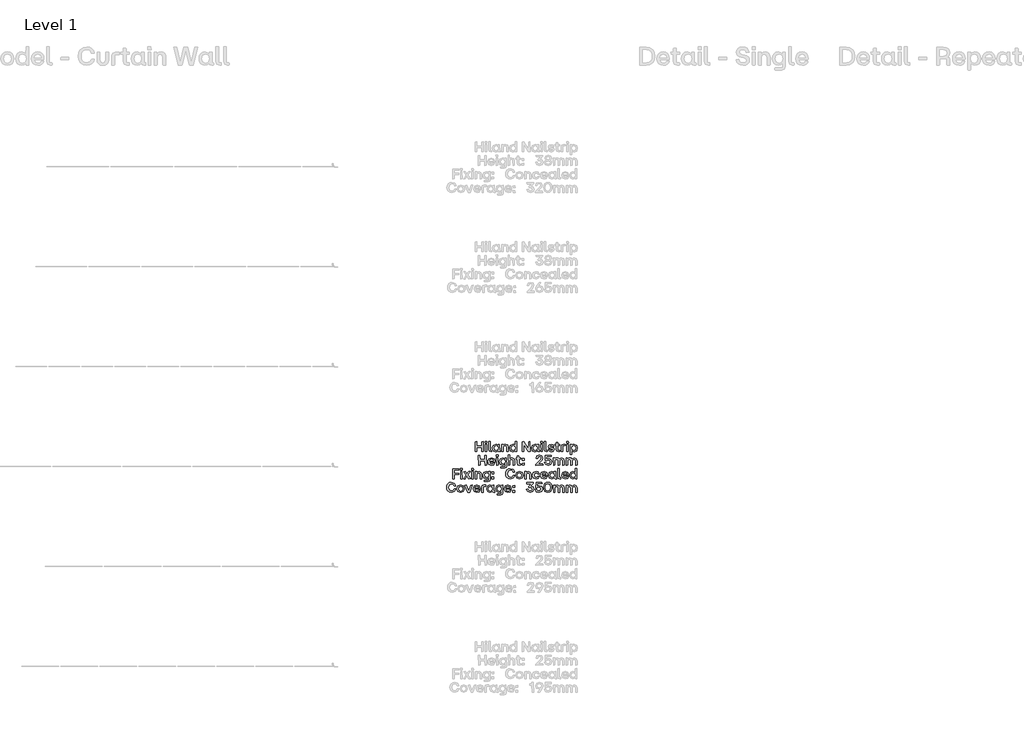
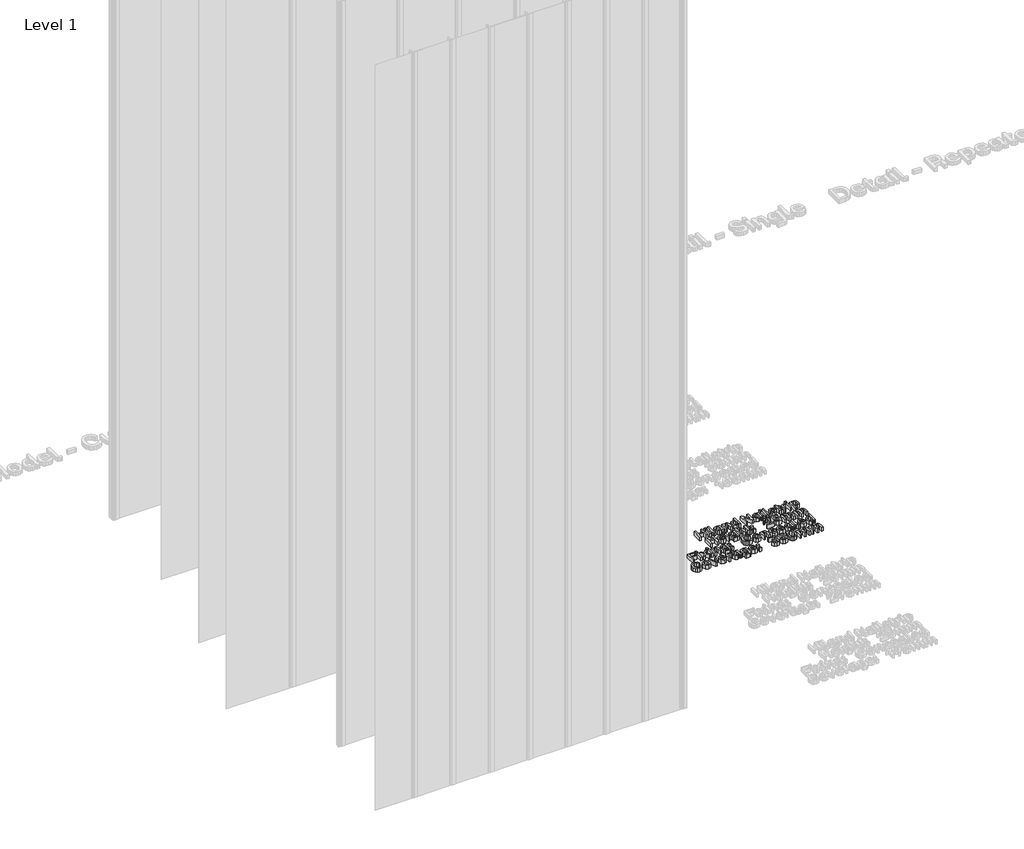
# One storey, part 28 of 64: 1 proxy.
"""IFC4 building model written with IfcOpenShell, lengths in millimetres."""

from ifc_helpers import new_model, si_unit, origin, origin_with_axes, place, context, project, spatial, polyline, outline, extrude, element, save

model = new_model("IFC4")

# Units and contexts
model_context = context("Model", 3, world=origin())
ifc_project = project(units=[si_unit("LENGTHUNIT", "METRE", prefix="MILLI")], contexts=[model_context])

# Site, building, storey
site = spatial("IfcSite", under=ifc_project)
building = spatial("IfcBuilding", under=site)
storey = spatial("IfcBuildingStorey", under=building, Name="Level 1", Elevation=0.0)

# Proxy
placement = place(None, origin())
element("IfcBuildingElementProxy", 1, Name="50mm", ObjectType="50mm", at=placement, inside=storey, context=model_context, shape_type="SweptSolid", body=[
    extrude(outline(polyline([(2520.0683519, -3433.5188866), (2519.3710201, -3411.5808277), (2495.5222721, -3411.5808277), (2495.5222721, -3432.8215548), (2488.0189817, -3433.5188866), (2487.2937566, -3384.2454206), (2494.7831003, -3383.5201955), (2495.5222721, -3404.6075096), (2519.3710201, -3404.6075096), (2519.3710201, -3384.2454206), (2526.8603638, -3383.5201955), (2527.5576956, -3432.8215548), (2520.0683519, -3433.5188866)])), origin_with_axes(), (0.0, 0.0, 1.0), 20.0),
    extrude(outline(polyline([(2537.6550603, -3433.5188866), (2536.9298352, -3397.8154977), (2544.1402462, -3397.1181659), (2544.837578, -3432.8215548), (2537.6550603, -3433.5188866)])), origin_with_axes(), (0.0, 0.0, 1.0), 20.0),
    extrude(outline(polyline([(2536.7206357, -3390.4516737), (2536.3719698, -3382.4044646), (2544.7678448, -3381.6652929), (2545.5070165, -3390.1030078), (2536.7206357, -3390.4516737)])), origin_with_axes(), (0.0, 0.0, 1.0), 20.0),
    extrude(outline(polyline([(2564.2373491, -3433.5188866), (2556.5388058, -3430.8690257), (2553.8889449, -3423.1565359), (2553.8889449, -3382.8228637), (2561.0993559, -3382.083692), (2561.7966877, -3427.2429003), (2568.4631799, -3427.2429003), (2569.1605117, -3432.8215548), (2564.2373491, -3433.5188866)])), origin_with_axes(), (0.0, 0.0, 1.0), 20.0),
    extrude(outline(polyline([(2589.3273478, -3433.9372857), (2577.5563867, -3428.8955767), (2573.1771429, -3415.3882594), (2577.5563867, -3401.7484491), (2589.3273478, -3396.6579269), (2595.9450267, -3398.2617901), (2600.9309491, -3402.6549805), (2601.2517218, -3397.8154977), (2608.4342395, -3397.1181659), (2609.1594646, -3427.2429003), (2613.1063626, -3427.2429003), (2613.8036944, -3432.8215548), (2607.8066408, -3433.5188866), (2603.151951, -3432.2113895), (2601.6003877, -3428.288898), (2596.2448794, -3432.3334225), (2589.3273478, -3433.9372857)]), holes=[polyline([(2581.2382987, -3415.3882594), (2583.9927594, -3424.2792401), (2591.5169696, -3427.521833), (2598.8807936, -3424.2931867), (2601.5306545, -3415.3882594), (2598.8598737, -3406.392679), (2591.5169696, -3403.1152195), (2583.9927594, -3406.392679), (2581.2382987, -3415.3882594)])]), origin_with_axes(), (0.0, 0.0, 1.0), 20.0),
    extrude(outline(polyline([(2620.6654395, -3433.5188866), (2619.9402144, -3397.8154977), (2626.8019595, -3397.1181659), (2627.4992913, -3402.6549805), (2632.6630334, -3398.1571903), (2639.2841989, -3396.6579269), (2648.8446181, -3400.8419178), (2652.1569442, -3413.0870644), (2652.1569442, -3432.8215548), (2644.9325866, -3433.5188866), (2644.2073616, -3413.0870644), (2642.2548325, -3405.7092939), (2636.0834459, -3403.3941522), (2629.8562728, -3405.7441604), (2627.8479572, -3413.0870644), (2627.8479572, -3432.8215548), (2620.6654395, -3433.5188866)])), origin_with_axes(), (0.0, 0.0, 1.0), 20.0),
    extrude(outline(polyline([(2675.0154811, -3433.9372857), (2663.2445201, -3428.8955767), (2658.8652763, -3415.3882594), (2663.2445201, -3401.7484491), (2675.0154811, -3396.6579269), (2681.63316, -3398.2617901), (2686.6190825, -3402.6549805), (2686.9398552, -3382.8228637), (2694.1223728, -3382.083692), (2694.8475979, -3432.8215548), (2687.9858529, -3433.5188866), (2687.2885211, -3428.0099653), (2681.9330127, -3432.3334225), (2675.0154811, -3433.9372857)]), holes=[polyline([(2666.9264321, -3415.3882594), (2669.6808927, -3424.2792401), (2677.205103, -3427.521833), (2684.568927, -3424.2931867), (2687.2187879, -3415.3882594), (2684.548007, -3406.392679), (2677.205103, -3403.1152195), (2669.6808927, -3406.392679), (2666.9264321, -3415.3882594)])]), origin_with_axes(), (0.0, 0.0, 1.0), 20.0),
    extrude(outline(polyline([(2721.8761791, -3433.5188866), (2721.150954, -3384.2454206), (2730.007068, -3383.5201955), (2753.2979506, -3420.7856077), (2753.5768834, -3384.2454206), (2760.7872943, -3383.5201955), (2761.4846261, -3432.8215548), (2752.670352, -3433.5188866), (2729.3794694, -3396.2395278), (2729.1005367, -3432.8215548), (2721.8761791, -3433.5188866)])), origin_with_axes(), (0.0, 0.0, 1.0), 20.0),
    extrude(outline(polyline([(2784.803402, -3433.9372857), (2773.032441, -3428.8955767), (2768.6531972, -3415.3882594), (2773.032441, -3401.7484491), (2784.803402, -3396.6579269), (2791.4210809, -3398.2617901), (2796.4070034, -3402.6549805), (2796.727776, -3397.8154977), (2803.9102937, -3397.1181659), (2804.6355188, -3427.2429003), (2808.5824169, -3427.2429003), (2809.2797487, -3432.8215548), (2803.2826951, -3433.5188866), (2798.6280052, -3432.2113895), (2797.076442, -3428.288898), (2791.7209336, -3432.3334225), (2784.803402, -3433.9372857)]), holes=[polyline([(2776.714353, -3415.3882594), (2779.4688136, -3424.2792401), (2786.9930239, -3427.521833), (2794.3568479, -3424.2931867), (2797.0067088, -3415.3882594), (2794.3359279, -3406.392679), (2786.9930239, -3403.1152195), (2779.4688136, -3406.392679), (2776.714353, -3415.3882594)])]), origin_with_axes(), (0.0, 0.0, 1.0), 20.0),
    extrude(outline(polyline([(2815.2070691, -3390.4516737), (2814.8584032, -3382.4044646), (2823.2542783, -3381.6652929), (2823.99345, -3390.1030078), (2815.2070691, -3390.4516737)])), origin_with_axes(), (0.0, 0.0, 1.0), 20.0),
    extrude(outline(polyline([(2816.1414938, -3433.5188866), (2815.4162687, -3397.8154977), (2822.6266796, -3397.1181659), (2823.3240115, -3432.8215548), (2816.1414938, -3433.5188866)])), origin_with_axes(), (0.0, 0.0, 1.0), 20.0),
    extrude(outline(polyline([(2842.7237825, -3433.5188866), (2835.0252393, -3430.8690257), (2832.3753784, -3423.1565359), (2832.3753784, -3382.8228637), (2839.5857894, -3382.083692), (2840.2831212, -3427.2429003), (2846.9496133, -3427.2429003), (2847.6469451, -3432.8215548), (2842.7237825, -3433.5188866)])), origin_with_axes(), (0.0, 0.0, 1.0), 20.0),
    extrude(outline(polyline([(2867.283809, -3433.9372857), (2856.5518724, -3430.9875721), (2852.0819755, -3422.5289372), (2859.0274004, -3421.7339789), (2862.109607, -3426.5455685), (2867.283809, -3427.8007657), (2871.7467327, -3426.6153017), (2873.420329, -3423.4354686), (2872.2209183, -3420.5764081), (2868.1624471, -3419.0841181), (2863.0719249, -3418.1775867), (2855.3454884, -3414.6351411), (2852.8490405, -3407.5363032), (2856.5100325, -3399.6215871), (2866.3772777, -3396.6579269), (2876.0701899, -3399.4123876), (2880.2960207, -3407.2294772), (2873.3505958, -3408.0244355), (2870.6031085, -3403.8613645), (2866.3772777, -3402.7944469), (2862.1235536, -3403.8962311), (2860.6591568, -3407.0900108), (2861.7051545, -3409.8584181), (2865.5125862, -3411.3716282), (2870.9517744, -3412.3897326), (2878.9641169, -3415.8763917), (2881.2304453, -3423.0170695), (2877.6043199, -3431.1130919), (2867.283809, -3433.9372857)])), origin_with_axes(), (0.0, 0.0, 1.0), 20.0),
    extrude(outline(polyline([(2903.0429845, -3433.5188866), (2895.3304946, -3430.8690257), (2892.6806337, -3423.1565359), (2892.6806337, -3403.3941522), (2886.4743806, -3403.3941522), (2885.7491555, -3397.8154977), (2892.6806337, -3397.1181659), (2892.6806337, -3387.104481), (2899.9049913, -3386.3792559), (2900.6023231, -3397.1181659), (2909.388704, -3397.1181659), (2910.1139291, -3402.6549805), (2900.6023231, -3403.3941522), (2900.6023231, -3427.2429003), (2909.388704, -3427.2429003), (2910.1139291, -3432.8215548), (2903.0429845, -3433.5188866)])), origin_with_axes(), (0.0, 0.0, 1.0), 20.0),
    extrude(outline(polyline([(2917.519593, -3433.5188866), (2916.8222612, -3407.4386768), (2919.4721221, -3399.7471068), (2927.1706653, -3397.1181659), (2937.3238165, -3397.1181659), (2938.0211483, -3403.1152195), (2924.7300039, -3403.8125513), (2924.7300039, -3432.8215548), (2917.519593, -3433.5188866)])), origin_with_axes(), (0.0, 0.0, 1.0), 20.0),
    extrude(outline(polyline([(2945.5662786, -3433.5188866), (2944.8410535, -3397.8154977), (2952.0514644, -3397.1181659), (2952.7487962, -3432.8215548), (2945.5662786, -3433.5188866)])), origin_with_axes(), (0.0, 0.0, 1.0), 20.0),
    extrude(outline(polyline([(2944.6318539, -3390.4516737), (2944.283188, -3382.4044646), (2952.6790631, -3381.6652929), (2953.4182348, -3390.1030078), (2944.6318539, -3390.4516737)])), origin_with_axes(), (0.0, 0.0, 1.0), 20.0),
    extrude(outline(polyline([(2962.5253883, -3447.0750171), (2961.8001632, -3397.8154977), (2968.6619083, -3397.1181659), (2969.3592401, -3402.5852473), (2974.7147484, -3398.2617901), (2981.63228, -3396.6579269), (2993.403241, -3401.7135826), (2997.7824848, -3415.2487931), (2993.403241, -3428.8607101), (2981.63228, -3433.9372857), (2975.0146011, -3432.3334225), (2970.0286786, -3427.9402321), (2969.707906, -3446.3776853), (2962.5253883, -3447.0750171)]), holes=[polyline([(2969.4289732, -3415.2487931), (2972.0997541, -3424.2443735), (2979.4426581, -3427.521833), (2986.9668684, -3424.2443735), (2989.7213291, -3415.2487931), (2986.9668684, -3406.3578124), (2979.4426581, -3403.1152195), (2972.0788341, -3406.3368925), (2969.4289732, -3415.2487931)])]), origin_with_axes(), (0.0, 0.0, 1.0), 20.0),
    extrude(outline(polyline([(2536.1348769, -3501.3705811), (2535.4375451, -3479.4325222), (2511.5887971, -3479.4325222), (2511.5887971, -3500.6732493), (2504.0855067, -3501.3705811), (2503.3602816, -3452.0971151), (2510.8496253, -3451.37189), (2511.5887971, -3472.459204), (2535.4375451, -3472.459204), (2535.4375451, -3452.0971151), (2542.9268888, -3451.37189), (2543.6242206, -3500.6732493), (2536.1348769, -3501.3705811)])), origin_with_axes(), (0.0, 0.0, 1.0), 20.0),
    extrude(outline(polyline([(2569.2720848, -3501.7889802), (2555.8693673, -3496.7472711), (2550.8625249, -3483.2399539), (2555.8484473, -3469.586197), (2569.2720848, -3464.5096214), (2581.552098, -3469.5164638), (2586.0498882, -3483.1702207), (2586.0498882, -3485.0809099), (2558.9934138, -3485.8200816), (2562.0616738, -3492.8631329), (2569.2720848, -3495.3735275), (2575.0599388, -3494.0974102), (2578.0584656, -3490.520098), (2585.1433569, -3489.9343393), (2580.4851803, -3498.6998002), (2569.2720848, -3501.7889802)]), holes=[polyline([(2559.063147, -3480.0322275), (2578.2676652, -3480.0322275), (2575.6247776, -3473.3866554), (2569.2720848, -3470.966914), (2562.1802202, -3473.2681089), (2559.063147, -3480.0322275)])]), origin_with_axes(), (0.0, 0.0, 1.0), 20.0),
    extrude(outline(polyline([(2592.9534732, -3458.3033682), (2592.6048073, -3450.2561591), (2601.0006823, -3449.5169873), (2601.7398541, -3457.9547023), (2592.9534732, -3458.3033682)])), origin_with_axes(), (0.0, 0.0, 1.0), 20.0),
    extrude(outline(polyline([(2593.8878978, -3501.3705811), (2593.1626727, -3465.6671922), (2600.3730837, -3464.9698603), (2601.0704155, -3500.6732493), (2593.8878978, -3501.3705811)])), origin_with_axes(), (0.0, 0.0, 1.0), 20.0),
    extrude(outline(polyline([(2615.5609706, -3514.9267115), (2614.8217989, -3509.348057), (2636.062526, -3508.6507252), (2636.062526, -3495.7919266), (2630.7558309, -3500.185117), (2624.1381519, -3501.7889802), (2612.3671909, -3496.7124045), (2607.9879471, -3483.1004875), (2612.3671909, -3469.565277), (2624.1381519, -3464.5096214), (2631.0556835, -3466.1134845), (2636.1322591, -3470.4369418), (2636.4111919, -3465.6671922), (2643.2450437, -3464.9698603), (2643.9702687, -3504.9269733), (2641.390141, -3512.3675038), (2633.9705305, -3514.9267115), (2615.5609706, -3514.9267115)]), holes=[polyline([(2616.0491029, -3483.1004875), (2618.8035636, -3492.0960679), (2626.3277738, -3495.3735275), (2633.6706778, -3492.0960679), (2636.3414587, -3483.1004875), (2633.6915978, -3474.1885869), (2626.3277738, -3470.966914), (2618.8035636, -3474.2095069), (2616.0491029, -3483.1004875)])]), origin_with_axes(), (0.0, 0.0, 1.0), 20.0),
    extrude(outline(polyline([(2653.6910742, -3501.3705811), (2652.9658492, -3450.6745581), (2660.1762601, -3449.9353864), (2660.8735919, -3470.2277422), (2665.9606275, -3465.9391516), (2672.3098337, -3464.5096214), (2681.8702529, -3468.6936122), (2685.182579, -3480.9387589), (2685.182579, -3500.6732493), (2677.9582214, -3501.3705811), (2677.2329963, -3480.9387589), (2675.2804672, -3473.5609883), (2669.1090807, -3471.2458467), (2662.8819076, -3473.5958549), (2660.8735919, -3480.9387589), (2660.8735919, -3500.6732493), (2653.6910742, -3501.3705811)])), origin_with_axes(), (0.0, 0.0, 1.0), 20.0),
    extrude(outline(polyline([(2708.459515, -3501.3705811), (2700.7470251, -3498.7207202), (2698.0971642, -3491.0082303), (2698.0971642, -3471.2458467), (2691.890911, -3471.2458467), (2691.165686, -3465.6671922), (2698.0971642, -3464.9698603), (2698.0971642, -3454.9561755), (2705.3215218, -3454.2309504), (2706.0188536, -3464.9698603), (2714.8052345, -3464.9698603), (2715.5304596, -3470.506675), (2706.0188536, -3471.2458467), (2706.0188536, -3495.0945947), (2714.8052345, -3495.0945947), (2715.5304596, -3500.6732493), (2708.459515, -3501.3705811)])), origin_with_axes(), (0.0, 0.0, 1.0), 20.0),
    extrude(outline(polyline([(2722.9361234, -3477.7310326), (2722.2387916, -3468.1078535), (2731.7225043, -3467.3686818), (2732.4477294, -3477.0337007), (2722.9361234, -3477.7310326)])), origin_with_axes(), (0.0, 0.0, 1.0), 20.0),
    extrude(outline(polyline([(2722.5874575, -3501.0219152), (2722.2387916, -3491.747402), (2731.7225043, -3491.0082303), (2732.4477294, -3500.6732493), (2722.5874575, -3501.0219152)])), origin_with_axes(), (0.0, 0.0, 1.0), 20.0),
    extrude(outline(polyline([(2790.4238964, -3501.3705811), (2789.6986714, -3496.5868848), (2807.0622335, -3480.590093), (2814.2098846, -3472.6753769), (2816.1972803, -3465.3882594), (2814.216858, -3459.7084918), (2808.2755909, -3457.8152359), (2801.4068725, -3459.8932847), (2798.5547854, -3466.4621504), (2791.1212283, -3467.1594822), (2795.7096716, -3454.9631488), (2808.2755909, -3450.9534909), (2820.1023385, -3454.8236824), (2824.4257957, -3465.3882594), (2821.7410682, -3475.1648515), (2812.5711549, -3485.5690422), (2803.1153355, -3494.0764903), (2825.8483526, -3494.355423), (2826.5456844, -3500.6732493), (2790.4238964, -3501.3705811)])), origin_with_axes(), (0.0, 0.0, 1.0), 20.0),
    extrude(outline(polyline([(2851.8030428, -3501.7889802), (2838.6025515, -3498.0931215), (2832.7937775, -3487.3821049), (2840.1576015, -3486.5871466), (2844.365999, -3493.0200326), (2851.8030428, -3494.9551284), (2859.2087066, -3492.2704009), (2861.802781, -3484.6625108), (2859.2226533, -3477.3614467), (2851.6635764, -3474.8719721), (2841.3012256, -3478.8049235), (2836.4617428, -3478.5259908), (2837.5077406, -3452.0971151), (2867.1443427, -3451.37189), (2867.8695678, -3457.6757696), (2844.1602861, -3458.3731014), (2843.3653278, -3471.0366471), (2848.5395299, -3468.8400519), (2854.2437041, -3468.0381203), (2865.7984923, -3472.4661774), (2870.0034031, -3484.6625108), (2865.1918136, -3497.27027), (2851.8030428, -3501.7889802)])), origin_with_axes(), (0.0, 0.0, 1.0), 20.0),
    extrude(outline(polyline([(2878.6224244, -3501.3705811), (2877.8971993, -3465.6671922), (2884.7589443, -3464.9698603), (2885.4562761, -3470.506675), (2890.4421986, -3466.0088848), (2896.8925179, -3464.5096214), (2903.1789642, -3466.0088848), (2907.394335, -3470.506675), (2913.2170557, -3466.0646713), (2920.4623332, -3464.5096214), (2929.7368464, -3468.6796656), (2932.9445727, -3480.9387589), (2932.9445727, -3500.6732493), (2925.7341617, -3501.3705811), (2925.0368299, -3480.9387589), (2923.154034, -3473.5609883), (2917.1848737, -3471.2458467), (2911.2784732, -3473.5958549), (2909.3747574, -3480.9387589), (2909.3747574, -3500.6732493), (2902.1643464, -3501.3705811), (2901.4670146, -3480.9387589), (2899.5981653, -3473.5609883), (2893.6847915, -3471.2458467), (2887.7086579, -3473.5958549), (2885.804942, -3480.9387589), (2885.804942, -3500.6732493), (2878.6224244, -3501.3705811)])), origin_with_axes(), (0.0, 0.0, 1.0), 20.0),
    extrude(outline(polyline([(2941.9959397, -3501.3705811), (2941.2707146, -3465.6671922), (2948.1324596, -3464.9698603), (2948.8297914, -3470.506675), (2953.8157139, -3466.0088848), (2960.2660332, -3464.5096214), (2966.5524795, -3466.0088848), (2970.7678503, -3470.506675), (2976.590571, -3466.0646713), (2983.8358485, -3464.5096214), (2993.1103617, -3468.6796656), (2996.318088, -3480.9387589), (2996.318088, -3500.6732493), (2989.1076771, -3501.3705811), (2988.4103452, -3480.9387589), (2986.5275493, -3473.5609883), (2980.558389, -3471.2458467), (2974.6519885, -3473.5958549), (2972.7482727, -3480.9387589), (2972.7482727, -3500.6732493), (2965.5378617, -3501.3705811), (2964.8405299, -3480.9387589), (2962.9716806, -3473.5609883), (2957.0583069, -3471.2458467), (2951.0821732, -3473.5958549), (2949.1784574, -3480.9387589), (2949.1784574, -3500.6732493), (2941.9959397, -3501.3705811)])), origin_with_axes(), (0.0, 0.0, 1.0), 20.0),
    extrude(outline(polyline([(2374.6607219, -3569.2222755), (2373.9354969, -3519.9488095), (2405.5246281, -3519.2235844), (2406.2219599, -3525.527464), (2382.1640123, -3526.2247958), (2382.1640123, -3541.287163), (2404.0881245, -3541.287163), (2404.7854563, -3547.5631494), (2382.1640123, -3548.3023211), (2382.1640123, -3568.5249437), (2374.6607219, -3569.2222755)])), origin_with_axes(), (0.0, 0.0, 1.0), 20.0),
    extrude(outline(polyline([(2414.4783686, -3569.2222755), (2413.7531435, -3533.5188866), (2420.9635544, -3532.8215548), (2421.6608863, -3568.5249437), (2414.4783686, -3569.2222755)])), origin_with_axes(), (0.0, 0.0, 1.0), 20.0),
    extrude(outline(polyline([(2413.5439439, -3526.1550627), (2413.195278, -3518.1078535), (2421.5911531, -3517.3686818), (2422.3303248, -3525.8063967), (2413.5439439, -3526.1550627)])), origin_with_axes(), (0.0, 0.0, 1.0), 20.0),
    extrude(outline(polyline([(2428.5784179, -3569.2222755), (2441.3395901, -3550.7429824), (2429.1362833, -3533.658353), (2437.1277059, -3532.8215548), (2445.9140868, -3544.815662), (2454.1426022, -3533.2399539), (2462.2595445, -3532.8215548), (2450.6559431, -3549.9340775), (2463.696048, -3568.3436374), (2455.7046254, -3569.2222755), (2445.9838199, -3555.7916648), (2436.7093068, -3568.8038764), (2428.5784179, -3569.2222755)])), origin_with_axes(), (0.0, 0.0, 1.0), 20.0),
    extrude(outline(polyline([(2470.7112061, -3569.2222755), (2469.985981, -3533.5188866), (2477.196392, -3532.8215548), (2477.8937238, -3568.5249437), (2470.7112061, -3569.2222755)])), origin_with_axes(), (0.0, 0.0, 1.0), 20.0),
    extrude(outline(polyline([(2469.7767815, -3526.1550627), (2469.4281156, -3518.1078535), (2477.8239906, -3517.3686818), (2478.5631623, -3525.8063967), (2469.7767815, -3526.1550627)])), origin_with_axes(), (0.0, 0.0, 1.0), 20.0),
    extrude(outline(polyline([(2487.6703158, -3569.2222755), (2486.9450907, -3533.5188866), (2493.8068358, -3532.8215548), (2494.5041676, -3538.3583694), (2499.6679097, -3533.8605792), (2506.2890753, -3532.3613158), (2515.8494944, -3536.5453067), (2519.1618206, -3548.7904534), (2519.1618206, -3568.5249437), (2511.937463, -3569.2222755), (2511.2122379, -3548.7904534), (2509.2597088, -3541.4126828), (2503.0883222, -3539.0975411), (2496.8611491, -3541.4475493), (2494.8528335, -3548.7904534), (2494.8528335, -3568.5249437), (2487.6703158, -3569.2222755)])), origin_with_axes(), (0.0, 0.0, 1.0), 20.0),
    extrude(outline(polyline([(2533.4431761, -3582.778406), (2532.7040044, -3577.1997515), (2553.9447315, -3576.5024197), (2553.9447315, -3563.643621), (2548.6380364, -3568.0368114), (2542.0203574, -3569.6406746), (2530.2493964, -3564.564099), (2525.8701526, -3550.952182), (2530.2493964, -3537.4169715), (2542.0203574, -3532.3613158), (2548.9378891, -3533.965179), (2554.0144647, -3538.2886362), (2554.2933974, -3533.5188866), (2561.1272492, -3532.8215548), (2561.8524743, -3572.7786678), (2559.2723465, -3580.2191982), (2551.852736, -3582.778406), (2533.4431761, -3582.778406)]), holes=[polyline([(2533.9313084, -3550.952182), (2536.6857691, -3559.9477624), (2544.2099793, -3563.2252219), (2551.5528834, -3559.9477624), (2554.2236642, -3550.952182), (2551.5738033, -3542.0402814), (2544.2099793, -3538.8186084), (2536.6857691, -3542.0612013), (2533.9313084, -3550.952182)])]), origin_with_axes(), (0.0, 0.0, 1.0), 20.0),
    extrude(outline(polyline([(2571.1967206, -3545.582727), (2570.4993888, -3535.959548), (2579.9831014, -3535.2203762), (2580.7083265, -3544.8853952), (2571.1967206, -3545.582727)])), origin_with_axes(), (0.0, 0.0, 1.0), 20.0),
    extrude(outline(polyline([(2570.8480547, -3568.8736096), (2570.4993888, -3559.5990965), (2579.9831014, -3558.8599248), (2580.7083265, -3568.5249437), (2570.8480547, -3568.8736096)])), origin_with_axes(), (0.0, 0.0, 1.0), 20.0),
    extrude(outline(polyline([(2662.9516407, -3569.6406746), (2652.9449292, -3567.9269817), (2645.2394126, -3562.7859029), (2640.3232234, -3554.7160305), (2638.6844936, -3544.2159567), (2640.33717, -3533.8919591), (2645.2951992, -3525.7924501), (2653.0146624, -3520.5520015), (2662.9516407, -3518.8051853), (2677.1283965, -3523.4215219), (2684.0807947, -3535.7085085), (2676.7588107, -3536.5174134), (2671.5950686, -3528.3272513), (2662.9516407, -3525.8063967), (2651.2922528, -3530.743506), (2647.0524754, -3544.2159567), (2651.2713328, -3557.7999804), (2662.9516407, -3562.6673565), (2671.7659149, -3560.1813685), (2676.4519847, -3552.7234048), (2683.8715952, -3552.0679129), (2677.4073293, -3565.0382846), (2662.9516407, -3569.6406746)])), origin_with_axes(), (0.0, 0.0, 1.0), 20.0),
    extrude(outline(polyline([(2708.306102, -3569.6406746), (2695.1474506, -3564.5152858), (2690.1057416, -3551.0916483), (2695.1613973, -3537.5564378), (2708.306102, -3532.3613158), (2721.5763264, -3537.5564378), (2726.6459287, -3551.0916483), (2721.5763264, -3564.5152858), (2708.306102, -3569.6406746)]), holes=[polyline([(2698.1668974, -3551.0916483), (2700.8655715, -3559.9965756), (2708.306102, -3563.2252219), (2715.8442589, -3559.982629), (2718.5987195, -3551.0916483), (2715.8582055, -3542.0960679), (2708.306102, -3538.8186084), (2700.8655715, -3542.0960679), (2698.1668974, -3551.0916483)])]), origin_with_axes(), (0.0, 0.0, 1.0), 20.0),
    extrude(outline(polyline([(2734.916284, -3569.2222755), (2734.1910589, -3533.5188866), (2741.052804, -3532.8215548), (2741.7501358, -3538.3583694), (2746.9138779, -3533.8605792), (2753.5350435, -3532.3613158), (2763.0954626, -3536.5453067), (2766.4077887, -3548.7904534), (2766.4077887, -3568.5249437), (2759.1834311, -3569.2222755), (2758.4582061, -3548.7904534), (2756.505677, -3541.4126828), (2750.3342904, -3539.0975411), (2744.1071173, -3541.4475493), (2742.0988017, -3548.7904534), (2742.0988017, -3568.5249437), (2734.916284, -3569.2222755)])), origin_with_axes(), (0.0, 0.0, 1.0), 20.0),
    extrude(outline(polyline([(2791.4559475, -3569.6406746), (2778.1229632, -3564.5989656), (2773.1161208, -3551.0916483), (2778.1926964, -3537.5564378), (2791.4559475, -3532.3613158), (2802.5295767, -3535.7991616), (2807.7456187, -3544.8853952), (2800.7304607, -3545.6524602), (2797.1601218, -3540.3527384), (2791.4559475, -3538.8186084), (2783.8968707, -3542.0960679), (2781.1772766, -3551.0916483), (2783.9108173, -3560.0174956), (2791.4559475, -3563.2252219), (2797.3344547, -3561.7608251), (2800.3120616, -3557.0189688), (2807.3969528, -3556.3495302), (2802.7387763, -3566.2028288), (2791.4559475, -3569.6406746)])), origin_with_axes(), (0.0, 0.0, 1.0), 20.0),
    extrude(outline(polyline([(2831.6919932, -3569.6406746), (2818.2892758, -3564.5989656), (2813.2824333, -3551.0916483), (2818.2683558, -3537.4378914), (2831.6919932, -3532.3613158), (2843.9720065, -3537.3681582), (2848.4697967, -3551.0219152), (2848.4697967, -3552.9326043), (2821.4133223, -3553.6717761), (2824.4815823, -3560.7148274), (2831.6919932, -3563.2252219), (2837.4798473, -3561.9491047), (2840.4783741, -3558.3717925), (2847.5632653, -3557.7860338), (2842.9050888, -3566.5514947), (2831.6919932, -3569.6406746)]), holes=[polyline([(2821.4830555, -3547.883922), (2840.6875736, -3547.883922), (2838.0446861, -3541.2383498), (2831.6919932, -3538.8186084), (2824.6001287, -3541.1198034), (2821.4830555, -3547.883922)])]), origin_with_axes(), (0.0, 0.0, 1.0), 20.0),
    extrude(outline(polyline([(2869.5989507, -3569.6406746), (2857.8279896, -3564.5989656), (2853.4487458, -3551.0916483), (2857.8279896, -3537.4518381), (2869.5989507, -3532.3613158), (2876.2166296, -3533.965179), (2881.2025521, -3538.3583694), (2881.5233247, -3533.5188866), (2888.7058424, -3532.8215548), (2889.4310675, -3562.9462892), (2893.3779655, -3562.9462892), (2894.0752974, -3568.5249437), (2888.0782438, -3569.2222755), (2883.4235539, -3567.9147784), (2881.8719906, -3563.9922869), (2876.5164823, -3568.0368114), (2869.5989507, -3569.6406746)]), holes=[polyline([(2861.5099016, -3551.0916483), (2864.2643623, -3559.982629), (2871.7885726, -3563.2252219), (2879.1523965, -3559.9965756), (2881.8022574, -3551.0916483), (2879.1314766, -3542.0960679), (2871.7885726, -3538.8186084), (2864.2643623, -3542.0960679), (2861.5099016, -3551.0916483)])]), origin_with_axes(), (0.0, 0.0, 1.0), 20.0),
    extrude(outline(polyline([(2910.5602215, -3569.2222755), (2902.8616782, -3566.5724146), (2900.2118173, -3558.8599248), (2900.2118173, -3518.5262526), (2907.4222283, -3517.7870809), (2908.1195601, -3562.9462892), (2914.7860523, -3562.9462892), (2915.4833841, -3568.5249437), (2910.5602215, -3569.2222755)])), origin_with_axes(), (0.0, 0.0, 1.0), 20.0),
    extrude(outline(polyline([(2937.9095752, -3569.6406746), (2924.5068578, -3564.5989656), (2919.5000153, -3551.0916483), (2924.4859378, -3537.4378914), (2937.9095752, -3532.3613158), (2950.1895885, -3537.3681582), (2954.6873787, -3551.0219152), (2954.6873787, -3552.9326043), (2927.6309043, -3553.6717761), (2930.6991643, -3560.7148274), (2937.9095752, -3563.2252219), (2943.6974293, -3561.9491047), (2946.6959561, -3558.3717925), (2953.7808473, -3557.7860338), (2949.1226708, -3566.5514947), (2937.9095752, -3569.6406746)]), holes=[polyline([(2927.7006375, -3547.883922), (2946.9051556, -3547.883922), (2944.2622681, -3541.2383498), (2937.9095752, -3538.8186084), (2930.8177107, -3541.1198034), (2927.7006375, -3547.883922)])]), origin_with_axes(), (0.0, 0.0, 1.0), 20.0),
    extrude(outline(polyline([(2975.8165327, -3569.6406746), (2964.0455716, -3564.5989656), (2959.6663278, -3551.0916483), (2964.0455716, -3537.4518381), (2975.8165327, -3532.3613158), (2982.4342116, -3533.965179), (2987.4201341, -3538.3583694), (2987.7409067, -3518.5262526), (2994.9234244, -3517.7870809), (2995.6486495, -3568.5249437), (2988.7869044, -3569.2222755), (2988.0895726, -3563.7133542), (2982.7340643, -3568.0368114), (2975.8165327, -3569.6406746)]), holes=[polyline([(2967.7274836, -3551.0916483), (2970.4819443, -3559.982629), (2978.0061546, -3563.2252219), (2985.3699785, -3559.9965756), (2988.0198394, -3551.0916483), (2985.3490586, -3542.0960679), (2978.0061546, -3538.8186084), (2970.4819443, -3542.0960679), (2967.7274836, -3551.0916483)])]), origin_with_axes(), (0.0, 0.0, 1.0), 20.0),
    extrude(outline(polyline([(2368.3986823, -3637.4923691), (2358.3919707, -3635.7786761), (2350.6864542, -3630.6375973), (2345.7702649, -3622.5677249), (2344.1315351, -3612.0676511), (2345.7842115, -3601.7436536), (2350.7422407, -3593.6441446), (2358.4617039, -3588.403696), (2368.3986823, -3586.6568798), (2382.575438, -3591.2732164), (2389.5278362, -3603.560203), (2382.2058522, -3604.3691079), (2377.0421101, -3596.1789457), (2368.3986823, -3593.6580912), (2356.7392943, -3598.5952004), (2352.4995169, -3612.0676511), (2356.7183744, -3625.6516749), (2368.3986823, -3630.5190509), (2377.2129564, -3628.033063), (2381.8990262, -3620.5750992), (2389.3186367, -3619.9196073), (2382.8543708, -3632.8899791), (2368.3986823, -3637.4923691)])), origin_with_axes(), (0.0, 0.0, 1.0), 20.0),
    extrude(outline(polyline([(2413.7531435, -3637.4923691), (2400.5944921, -3632.3669802), (2395.5527831, -3618.9433428), (2400.6084388, -3605.4081323), (2413.7531435, -3600.2130103), (2427.0233679, -3605.4081323), (2432.0929702, -3618.9433428), (2427.0233679, -3632.3669802), (2413.7531435, -3637.4923691)]), holes=[polyline([(2403.6139389, -3618.9433428), (2406.312613, -3627.8482701), (2413.7531435, -3631.0769164), (2421.2913004, -3627.8343234), (2424.0457611, -3618.9433428), (2421.305247, -3609.9477624), (2413.7531435, -3606.6703029), (2406.312613, -3609.9477624), (2403.6139389, -3618.9433428)])]), origin_with_axes(), (0.0, 0.0, 1.0), 20.0),
    extrude(outline(polyline([(2450.1957041, -3637.07397), (2435.8027755, -3601.5100474), (2443.0550263, -3600.6732493), (2454.4912681, -3630.5887841), (2465.3278045, -3601.2311147), (2472.6916284, -3600.6732493), (2459.5817903, -3636.5161045), (2450.1957041, -3637.07397)])), origin_with_axes(), (0.0, 0.0, 1.0), 20.0),
    extrude(outline(polyline([(2495.1875528, -3637.4923691), (2481.7848353, -3632.45066), (2476.7779929, -3618.9433428), (2481.7639154, -3605.2895859), (2495.1875528, -3600.2130103), (2507.467566, -3605.2198527), (2511.9653562, -3618.8736096), (2511.9653562, -3620.7842988), (2484.9088818, -3621.5234705), (2487.9771418, -3628.5665218), (2495.1875528, -3631.0769164), (2500.9754068, -3629.8007992), (2503.9739336, -3626.2234869), (2511.0588249, -3625.6377282), (2506.4006484, -3634.4031891), (2495.1875528, -3637.4923691)]), holes=[polyline([(2484.978615, -3615.7356165), (2504.1831332, -3615.7356165), (2501.5402456, -3609.0900443), (2495.1875528, -3606.6703029), (2488.0956882, -3608.9714978), (2484.978615, -3615.7356165)])]), origin_with_axes(), (0.0, 0.0, 1.0), 20.0),
    extrude(outline(polyline([(2519.4268067, -3637.07397), (2518.7294748, -3610.9937601), (2521.3793357, -3603.3021902), (2529.077879, -3600.6732493), (2539.2310302, -3600.6732493), (2539.928362, -3606.6703029), (2526.6372176, -3607.3676347), (2526.6372176, -3636.3766382), (2519.4268067, -3637.07397)])), origin_with_axes(), (0.0, 0.0, 1.0), 20.0),
    extrude(outline(polyline([(2560.7646366, -3637.4923691), (2548.9936756, -3632.45066), (2544.6144318, -3618.9433428), (2548.9936756, -3605.3035325), (2560.7646366, -3600.2130103), (2567.3823155, -3601.8168734), (2572.368238, -3606.2100639), (2572.6890107, -3601.3705811), (2579.8715283, -3600.6732493), (2580.5967534, -3630.7979836), (2584.5436515, -3630.7979836), (2585.2409833, -3636.3766382), (2579.2439297, -3637.07397), (2574.5892398, -3635.7664728), (2573.0376766, -3631.8439814), (2567.6821682, -3635.8885059), (2560.7646366, -3637.4923691)]), holes=[polyline([(2552.6755876, -3618.9433428), (2555.4300482, -3627.8343234), (2562.9542585, -3631.0769164), (2570.3180825, -3627.8482701), (2572.9679434, -3618.9433428), (2570.2971625, -3609.9477624), (2562.9542585, -3606.6703029), (2555.4300482, -3609.9477624), (2552.6755876, -3618.9433428)])]), origin_with_axes(), (0.0, 0.0, 1.0), 20.0),
    extrude(outline(polyline([(2596.8166914, -3650.6301005), (2596.0775197, -3645.0514459), (2617.3182468, -3644.3541141), (2617.3182468, -3631.4953155), (2612.0115517, -3635.8885059), (2605.3938728, -3637.4923691), (2593.6229117, -3632.4157935), (2589.2436679, -3618.8038764), (2593.6229117, -3605.2686659), (2605.3938728, -3600.2130103), (2612.3114044, -3601.8168734), (2617.38798, -3606.1403307), (2617.6669127, -3601.3705811), (2624.5007645, -3600.6732493), (2625.2259896, -3640.6303622), (2622.6458619, -3648.0708927), (2615.2262513, -3650.6301005), (2596.8166914, -3650.6301005)]), holes=[polyline([(2597.3048237, -3618.8038764), (2600.0592844, -3627.7994568), (2607.5834947, -3631.0769164), (2614.9263987, -3627.7994568), (2617.5971795, -3618.8038764), (2614.9473186, -3609.8919758), (2607.5834947, -3606.6703029), (2600.0592844, -3609.9128958), (2597.3048237, -3618.8038764)])]), origin_with_axes(), (0.0, 0.0, 1.0), 20.0),
    extrude(outline(polyline([(2650.4972945, -3637.4923691), (2637.0945771, -3632.45066), (2632.0877346, -3618.9433428), (2637.0736571, -3605.2895859), (2650.4972945, -3600.2130103), (2662.7773078, -3605.2198527), (2667.275098, -3618.8736096), (2667.275098, -3620.7842988), (2640.2186236, -3621.5234705), (2643.2868836, -3628.5665218), (2650.4972945, -3631.0769164), (2656.2851486, -3629.8007992), (2659.2836754, -3626.2234869), (2666.3685666, -3625.6377282), (2661.7103901, -3634.4031891), (2650.4972945, -3637.4923691)]), holes=[polyline([(2640.2883568, -3615.7356165), (2659.4928749, -3615.7356165), (2656.8499874, -3609.0900443), (2650.4972945, -3606.6703029), (2643.40543, -3608.9714978), (2640.2883568, -3615.7356165)])]), origin_with_axes(), (0.0, 0.0, 1.0), 20.0),
    extrude(outline(polyline([(2674.7365484, -3613.4344215), (2674.0392166, -3603.8112424), (2683.5229293, -3603.0720707), (2684.2481544, -3612.7370896), (2674.7365484, -3613.4344215)])), origin_with_axes(), (0.0, 0.0, 1.0), 20.0),
    extrude(outline(polyline([(2674.3878825, -3636.7253041), (2674.0392166, -3627.4507909), (2683.5229293, -3626.7116192), (2684.2481544, -3636.3766382), (2674.3878825, -3636.7253041)])), origin_with_axes(), (0.0, 0.0, 1.0), 20.0),
    extrude(outline(polyline([(2761.8611853, -3637.4923691), (2748.4654412, -3633.4269246), (2742.6427205, -3621.6629369), (2750.0065445, -3620.854032), (2754.1696154, -3628.4270555), (2761.8611853, -3630.6585173), (2769.0018631, -3628.2527225), (2771.651724, -3621.6629369), (2768.8833167, -3614.7942185), (2760.2154822, -3612.5976233), (2754.7762941, -3612.5976233), (2754.0789623, -3608.5112589), (2767.4398398, -3594.355423), (2744.734716, -3594.0764903), (2744.0094909, -3587.800504), (2777.7185108, -3587.0752789), (2778.4158426, -3591.8868684), (2765.515204, -3605.7916648), (2776.2401673, -3610.9170536), (2779.8523461, -3621.6629369), (2775.00589, -3633.238645), (2761.8611853, -3637.4923691)])), origin_with_axes(), (0.0, 0.0, 1.0), 20.0),
    extrude(outline(polyline([(2805.3886372, -3637.4923691), (2792.1881459, -3633.7965104), (2786.3793719, -3623.0854938), (2793.7431959, -3622.2905355), (2797.9515934, -3628.7234215), (2805.3886372, -3630.6585173), (2812.7943011, -3627.9737898), (2815.3883754, -3620.3658997), (2812.8082477, -3613.0648356), (2805.2491708, -3610.575361), (2794.8868201, -3614.5083125), (2790.0473373, -3614.2293797), (2791.093335, -3587.800504), (2820.7299371, -3587.0752789), (2821.4551622, -3593.3791585), (2797.7458805, -3594.0764903), (2796.9509222, -3606.740036), (2802.1251243, -3604.5434408), (2807.8292985, -3603.7415092), (2819.3840867, -3608.1695663), (2823.5889975, -3620.3658997), (2818.777408, -3632.9736589), (2805.3886372, -3637.4923691)])), origin_with_axes(), (0.0, 0.0, 1.0), 20.0),
    extrude(outline(polyline([(2850.1294464, -3637.4923691), (2841.2123158, -3635.8919926), (2834.8230131, -3631.090863), (2830.9789714, -3623.134307), (2829.6976242, -3612.0676511), (2830.9789714, -3601.0027385), (2834.8230131, -3593.0514125), (2841.2123158, -3588.255513), (2850.1294464, -3586.6568798), (2858.9907904, -3588.255513), (2865.3521999, -3593.0514125), (2869.1857816, -3601.0027385), (2870.4636421, -3612.0676511), (2869.1857816, -3623.134307), (2865.3521999, -3631.090863), (2858.9907904, -3635.8919926), (2850.1294464, -3637.4923691)]), holes=[polyline([(2840.9107198, -3597.9815485), (2838.065606, -3612.0676511), (2840.9107198, -3626.1746737), (2850.1294464, -3630.5190509), (2859.2644932, -3626.1258605), (2862.1235536, -3612.0746244), (2859.2644932, -3598.037335), (2850.1294464, -3593.6580912), (2840.9107198, -3597.9815485)])]), origin_with_axes(), (0.0, 0.0, 1.0), 20.0),
    extrude(outline(polyline([(2878.6224244, -3637.07397), (2877.8971993, -3601.3705811), (2884.7589443, -3600.6732493), (2885.4562761, -3606.2100639), (2890.4421986, -3601.7122737), (2896.8925179, -3600.2130103), (2903.1789642, -3601.7122737), (2907.394335, -3606.2100639), (2913.2170557, -3601.7680602), (2920.4623332, -3600.2130103), (2929.7368464, -3604.3830545), (2932.9445727, -3616.6421478), (2932.9445727, -3636.3766382), (2925.7341617, -3637.07397), (2925.0368299, -3616.6421478), (2923.154034, -3609.2643772), (2917.1848737, -3606.9492356), (2911.2784732, -3609.2992438), (2909.3747574, -3616.6421478), (2909.3747574, -3636.3766382), (2902.1643464, -3637.07397), (2901.4670146, -3616.6421478), (2899.5981653, -3609.2643772), (2893.6847915, -3606.9492356), (2887.7086579, -3609.2992438), (2885.804942, -3616.6421478), (2885.804942, -3636.3766382), (2878.6224244, -3637.07397)])), origin_with_axes(), (0.0, 0.0, 1.0), 20.0),
    extrude(outline(polyline([(2941.9959397, -3637.07397), (2941.2707146, -3601.3705811), (2948.1324596, -3600.6732493), (2948.8297914, -3606.2100639), (2953.8157139, -3601.7122737), (2960.2660332, -3600.2130103), (2966.5524795, -3601.7122737), (2970.7678503, -3606.2100639), (2976.590571, -3601.7680602), (2983.8358485, -3600.2130103), (2993.1103617, -3604.3830545), (2996.318088, -3616.6421478), (2996.318088, -3636.3766382), (2989.1076771, -3637.07397), (2988.4103452, -3616.6421478), (2986.5275493, -3609.2643772), (2980.558389, -3606.9492356), (2974.6519885, -3609.2992438), (2972.7482727, -3616.6421478), (2972.7482727, -3636.3766382), (2965.5378617, -3637.07397), (2964.8405299, -3616.6421478), (2962.9716806, -3609.2643772), (2957.0583069, -3606.9492356), (2951.0821732, -3609.2992438), (2949.1784574, -3616.6421478), (2949.1784574, -3636.3766382), (2941.9959397, -3637.07397)])), origin_with_axes(), (0.0, 0.0, 1.0), 20.0),
])

save(model, "model.ifc")
